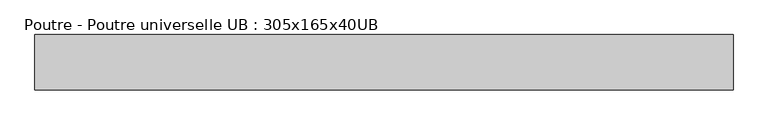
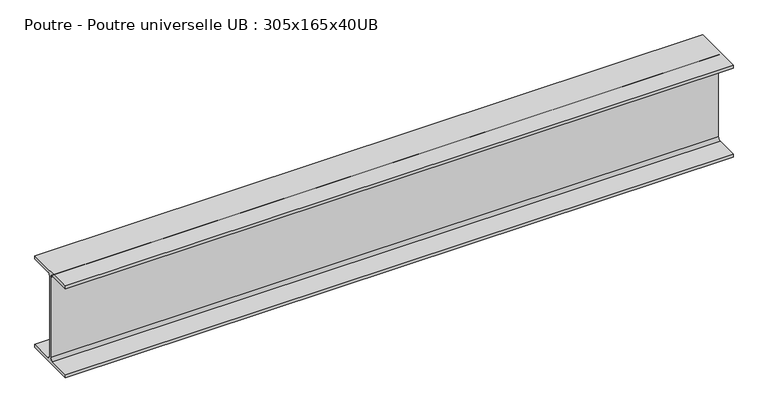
"""IFC4 building model written with IfcOpenShell, lengths in millimetres: beam geometry, Poutre - Poutre universelle UB : 305x165x40UB."""

import ifcopenshell
import ifcopenshell.guid

model = None  # the IFC model being written
_history = None  # IfcOwnerHistory: only IFC2X3 demands one
_inside = {}  # id of a spatial element -> (the spatial element, [elements in it])
_under = {}  # id of a project, library or spatial element -> (it, [spatial elements below it])
_declared = {}  # id of a project -> (the project, [libraries it declares])
_typed = {}  # id of a type object -> (the type object, [elements of that type])
_made_of = {}  # id of a material, layer set ... -> (it, [elements and type objects made of it])


def new_model(schema):
    """Start an empty IFC model of exactly this schema.

    Asked for "IFC4X3", IfcOpenShell would pick the latest addendum, in which some entities
    have other attributes; the version numbers below select the first issue.
    IFC2X3 requires an IfcOwnerHistory on every rooted entity: one is made here for all.
    """
    global model, _history
    if schema == "IFC4X3":
        model = ifcopenshell.file(schema_version=(4, 3, 0, 0))
    else:
        model = ifcopenshell.file(schema=schema)
    _inside.clear()
    _under.clear()
    _declared.clear()
    _typed.clear()
    _made_of.clear()
    _history = None
    if model.schema == "IFC2X3":
        org = make("IfcOrganization", Name="unknown")
        user = make(
            "IfcPersonAndOrganization",
            ThePerson=make("IfcPerson", FamilyName="unknown"),
            TheOrganization=org,
        )
        app = make(
            "IfcApplication",
            ApplicationDeveloper=org,
            Version="unknown",
            ApplicationFullName="unknown",
            ApplicationIdentifier="unknown",
        )
        _history = make(
            "IfcOwnerHistory",
            OwningUser=user,
            OwningApplication=app,
            ChangeAction="ADDED",
            CreationDate=0,
        )
    return model


def make(cls, **values):
    """One entity of the class cls with the attributes given. An attribute that is None is left unset."""
    return model.create_entity(
        cls, **{name: value for name, value in values.items() if value is not None}
    )


def rooted(cls, **values):
    """An entity with a GlobalId (a new one), such as an element, a storey or a relation."""
    return make(cls, GlobalId=ifcopenshell.guid.new(), OwnerHistory=_history, **values)


def si_unit(unit_type, name, prefix=None):
    """IfcSIUnit, for example si_unit("LENGTHUNIT", "METRE", prefix="MILLI")."""
    return make("IfcSIUnit", UnitType=unit_type, Prefix=prefix, Name=name)


def assignment(units):
    """IfcUnitAssignment: the units of a project."""
    return None if units is None else make("IfcUnitAssignment", Units=units)


def point(xyz):
    """IfcCartesianPoint."""
    return None if xyz is None else make("IfcCartesianPoint", Coordinates=xyz)


def direction(xyz):
    """IfcDirection."""
    return None if xyz is None else make("IfcDirection", DirectionRatios=xyz)


def frame(location, z_axis=None, x_axis=None):
    """IfcAxis2Placement3D, a coordinate frame: its origin and axes. An axis left out is left unset."""
    return make(
        "IfcAxis2Placement3D",
        Location=point(location),
        Axis=direction(z_axis),
        RefDirection=direction(x_axis),
    )


def frame_2d(location, x_axis=None):
    """IfcAxis2Placement2D, a coordinate frame in the plane: its origin and x axis."""
    return make(
        "IfcAxis2Placement2D", Location=point(location), RefDirection=direction(x_axis)
    )


def origin():
    """The frame at (0, 0, 0) with its axes left unset."""
    return frame((0.0, 0.0, 0.0))


def place(relative_to, where):
    """IfcLocalPlacement: puts the frame where relative to a parent placement (None: the world)."""
    return make(
        "IfcLocalPlacement", PlacementRelTo=relative_to, RelativePlacement=where
    )


def context(
    kind, dimensions, precision=None, world=None, true_north=None, identifier=None
):
    """IfcGeometricRepresentationContext, for example the 3D "Model" context."""
    return make(
        "IfcGeometricRepresentationContext",
        ContextIdentifier=identifier,
        ContextType=kind,
        CoordinateSpaceDimension=dimensions,
        Precision=precision,
        WorldCoordinateSystem=world,
        TrueNorth=true_north,
    )


def project(units=None, contexts=None):
    """IfcProject with its units and contexts."""
    return rooted(
        "IfcProject",
        Name="project",
        RepresentationContexts=contexts,
        UnitsInContext=assignment(units),
    )


def spatial(cls, under=None, at=None, **own):
    """A site, building, storey or space (cls), placed at a placement, below another one or the project."""
    s = rooted(cls, ObjectPlacement=at, **own)
    if under is not None:
        _under.setdefault(under.id(), (under, []))[1].append(s)
    return s


def polyline(points):
    """IfcPolyline through the points."""
    return make("IfcPolyline", Points=[point(p) for p in points])


def circle_curve(where, radius):
    """IfcCircle in the frame where."""
    return make("IfcCircle", Position=where, Radius=radius)


def trimmed(basis, trim1, trim2, sense, master):
    """IfcTrimmedCurve: the piece of a basis curve between two trims."""
    return make(
        "IfcTrimmedCurve",
        BasisCurve=basis,
        Trim1=trim1,
        Trim2=trim2,
        SenseAgreement=sense,
        MasterRepresentation=master,
    )


def segment(curve, same_sense, transition):
    """IfcCompositeCurveSegment."""
    return make(
        "IfcCompositeCurveSegment",
        Transition=transition,
        SameSense=same_sense,
        ParentCurve=curve,
    )


def composite_curve(segments, self_intersect=None):
    """IfcCompositeCurve: segments joined end to end."""
    return make("IfcCompositeCurve", Segments=segments, SelfIntersect=self_intersect)


def outline(outer, holes=None, kind="AREA"):
    """IfcArbitraryClosedProfileDef: a profile drawn as a closed curve; with holes, ...WithVoids."""
    if holes is None:
        return make("IfcArbitraryClosedProfileDef", ProfileType=kind, OuterCurve=outer)
    return make(
        "IfcArbitraryProfileDefWithVoids",
        ProfileType=kind,
        OuterCurve=outer,
        InnerCurves=holes,
    )


def extrude(swept, where, along, depth):
    """IfcExtrudedAreaSolid: the profile swept, set in the frame where, extruded along a direction by depth."""
    return make(
        "IfcExtrudedAreaSolid",
        SweptArea=swept,
        Position=where,
        ExtrudedDirection=direction(along),
        Depth=depth,
    )


def shape(context_of_items, identifier, shape_type, items):
    """IfcShapeRepresentation: the items that make up one representation, for example the "Body"."""
    return make(
        "IfcShapeRepresentation",
        ContextOfItems=context_of_items,
        RepresentationIdentifier=identifier,
        RepresentationType=shape_type,
        Items=items,
    )


def source(mapping_origin, context_of_items, identifier, shape_type, items):
    """IfcRepresentationMap: a shape defined once, which mapped items show again and again."""
    return make(
        "IfcRepresentationMap",
        MappingOrigin=mapping_origin,
        MappedRepresentation=shape(context_of_items, identifier, shape_type, items),
    )


def transform(
    local_origin,
    x_axis=None,
    y_axis=None,
    z_axis=None,
    scale=None,
    scale2=None,
    scale3=None,
    uniform=True,
):
    """IfcCartesianTransformationOperator3D, or its non-uniform kind. x_axis, y_axis, z_axis: its Axis1, 2, 3."""
    if uniform:
        return make(
            "IfcCartesianTransformationOperator3D",
            Axis1=direction(x_axis),
            Axis2=direction(y_axis),
            LocalOrigin=point(local_origin),
            Scale=scale,
            Axis3=direction(z_axis),
        )
    return make(
        "IfcCartesianTransformationOperator3DnonUniform",
        Axis1=direction(x_axis),
        Axis2=direction(y_axis),
        LocalOrigin=point(local_origin),
        Scale=scale,
        Axis3=direction(z_axis),
        Scale2=scale2,
        Scale3=scale3,
    )


def mapped(mapping_source, mapping_target):
    """IfcMappedItem: shows the shape of a source again, moved by a transform."""
    return make(
        "IfcMappedItem", MappingSource=mapping_source, MappingTarget=mapping_target
    )


def made_of(thing, what):
    """Note that an element or type object is made of a material, layer set ...; save() writes the relation."""
    if what is not None:
        _made_of.setdefault(what.id(), (what, []))[1].append(thing)
    return thing


def element(
    cls,
    number,
    at=None,
    inside=None,
    cuts=None,
    type_object=None,
    material=None,
    context=None,
    identifier="Body",
    shape_type=None,
    held_by="IfcProductDefinitionShape",
    body=None,
    shapes=None,
    **own,
):
    """One element of the class cls, such as IfcWall. Its Tag is "e" and its number.

    at: its placement. inside: the storey or other place that contains it. cuts: it is an
    opening in that element (IfcRelVoidsElement). A single representation is given by context,
    identifier, shape_type and body (its items); several are given by shapes. held_by: the class
    of the entity that holds the representations. save() writes the other relations.
    """
    e = rooted(cls, Tag="e%d" % number, ObjectPlacement=at, **own)
    if body is not None:
        shapes = [shape(context, identifier, shape_type, body)]
    if shapes is not None:
        e.Representation = make(held_by, Representations=shapes)
    if inside is not None:
        _inside.setdefault(inside.id(), (inside, []))[1].append(e)
    if cuts is not None:
        rooted(
            "IfcRelVoidsElement", RelatingBuildingElement=cuts, RelatedOpeningElement=e
        )
    if type_object is not None:
        _typed.setdefault(type_object.id(), (type_object, []))[1].append(e)
    return made_of(e, material)


def aggregate(whole, parts):
    """IfcRelAggregates: a whole, such as a stair, and the parts it consists of."""
    return rooted("IfcRelAggregates", RelatingObject=whole, RelatedObjects=parts)


def save(model, path):
    """Write the relations noted so far, then the file.

    IfcRelAggregates (storeys below a building ...), IfcRelContainedInSpatialStructure (elements
    in a storey), IfcRelDefinesByType, IfcRelAssociatesMaterial and IfcRelDeclares: one each for
    every whole, place, type object, material and project.
    """
    for whole, parts in _under.values():
        aggregate(whole, parts)
    for where, things in _inside.values():
        rooted(
            "IfcRelContainedInSpatialStructure",
            RelatedElements=things,
            RelatingStructure=where,
        )
    for kind, things in _typed.values():
        rooted("IfcRelDefinesByType", RelatedObjects=things, RelatingType=kind)
    for what, things in _made_of.values():
        rooted("IfcRelAssociatesMaterial", RelatedObjects=things, RelatingMaterial=what)
    for by, libraries in _declared.values():
        rooted("IfcRelDeclares", RelatingContext=by, RelatedDefinitions=libraries)
    model.write(path)


def poutre_poutre_universelle_ub_305x165x40ub_460f90cb(model_context):
    return source(origin(), model_context, "Body", "SweptSolid", [
        extrude(outline(composite_curve([segment(polyline([(82.5, -141.5), (82.5, -151.7), (-82.5, -151.7), (-82.5, -141.5), (-11.9, -141.5)]), True, "CONTINUOUS"), segment(trimmed(circle_curve(frame_2d((-11.9, -132.6)), 8.9), [point((-11.9, -141.5))], [point((-3.0, -132.6))], True, "CARTESIAN"), True, "CONTINUOUS"), segment(polyline([(-3.0, -132.6), (-3.0, 132.6)]), True, "CONTINUOUS"), segment(trimmed(circle_curve(frame_2d((-11.9, 132.6)), 8.9), [point((-3.0, 132.6))], [point((-11.9, 141.5))], True, "CARTESIAN"), True, "CONTINUOUS"), segment(polyline([(-11.9, 141.5), (-82.5, 141.5), (-82.5, 151.7), (82.5, 151.7), (82.5, 141.5), (11.9, 141.5)]), True, "CONTINUOUS"), segment(trimmed(circle_curve(frame_2d((11.9, 132.6)), 8.9), [point((11.9, 141.5))], [point((3.0, 132.6))], True, "CARTESIAN"), True, "CONTINUOUS"), segment(polyline([(3.0, 132.6), (3.0, -132.6)]), True, "CONTINUOUS"), segment(trimmed(circle_curve(frame_2d((11.9, -132.6)), 8.9), [point((3.0, -132.6))], [point((11.9, -141.5))], True, "CARTESIAN"), True, "CONTINUOUS"), segment(polyline([(11.9, -141.5), (82.5, -141.5)]), True, "CONTINUOUS")], self_intersect=False)), frame((-994.5, 0.0, 0.0), z_axis=(1.0, 0.0, 0.0), x_axis=(0.0, 1.0, 0.0)), (0.0, 0.0, 1.0), 2084.0),
    ])


if __name__ == "__main__":
    model = new_model("IFC4")
    model_context = context("Model", 3, world=origin())
    ifc_project = project(units=[si_unit("LENGTHUNIT", "METRE", prefix="MILLI")], contexts=[model_context])
    site = spatial("IfcSite", under=ifc_project)
    building = spatial("IfcBuilding", under=site)
    placement = place(None, origin())
    poutre_poutre_universelle_ub_305x165x40ub_shape = poutre_poutre_universelle_ub_305x165x40ub_460f90cb(model_context)
    element("IfcBeam", 1, ObjectType="Poutre - Poutre universelle UB : 305x165x40UB", at=placement, inside=building, context=model_context, shape_type="MappedRepresentation", body=[
        mapped(poutre_poutre_universelle_ub_305x165x40ub_shape, transform((0.0, 0.0, 0.0), x_axis=(1.0, 0.0, 0.0), y_axis=(0.0, 1.0, 0.0), z_axis=(0.0, 0.0, 1.0))),
    ])
    save(model, "model.ifc")
